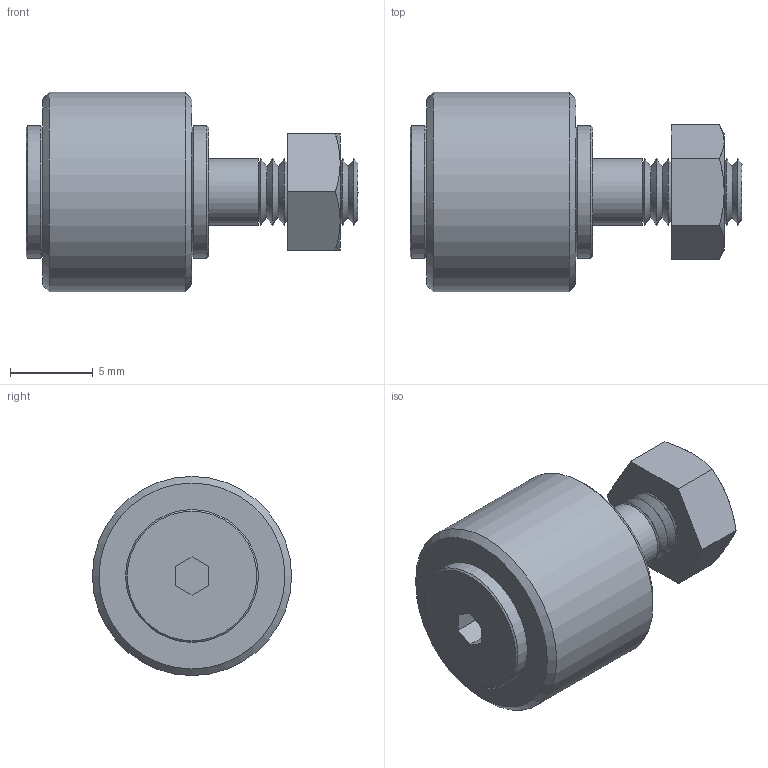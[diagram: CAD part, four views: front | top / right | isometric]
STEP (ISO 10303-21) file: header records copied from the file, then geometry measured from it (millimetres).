
FILE_DESCRIPTION((''),'1');
FILE_NAME('C:/Users/t-inoue/Desktop/IMCF-4C.stp','2016-05-20T06:16:38',(''),(''),'Spatial Interop R21 SP3','Kubotek KeyCreator 2011 V10.0.2 (22737)',' ');
FILE_SCHEMA(('automotive_design'));
Length unit declared in the file: millimetre
Products named in the file (50): Unnamed[1]
Bounding box: 20 x 12 x 12 mm (x, y, z)
Surface area: 857.3 mm2 (no closed solid volume)
Topology: 0 solids, 50 shells, 50 faces, 178 edges, 155 vertices
Faces by surface type: cone 25, plane 21, cylinder 4
Full cylindrical faces by diameter (mm): 4 x1, 8 x2, 12 x1
Entity records: 3848 total; most frequent: CARTESIAN_POINT 446, DIRECTION 390, PRESENTATION_STYLE_ASSIGNMENT 200, COLOUR_RGB 200, AXIS2_PLACEMENT_3D 165, ORIENTED_EDGE 149, EDGE_CURVE 149, VERTEX_POINT 149
